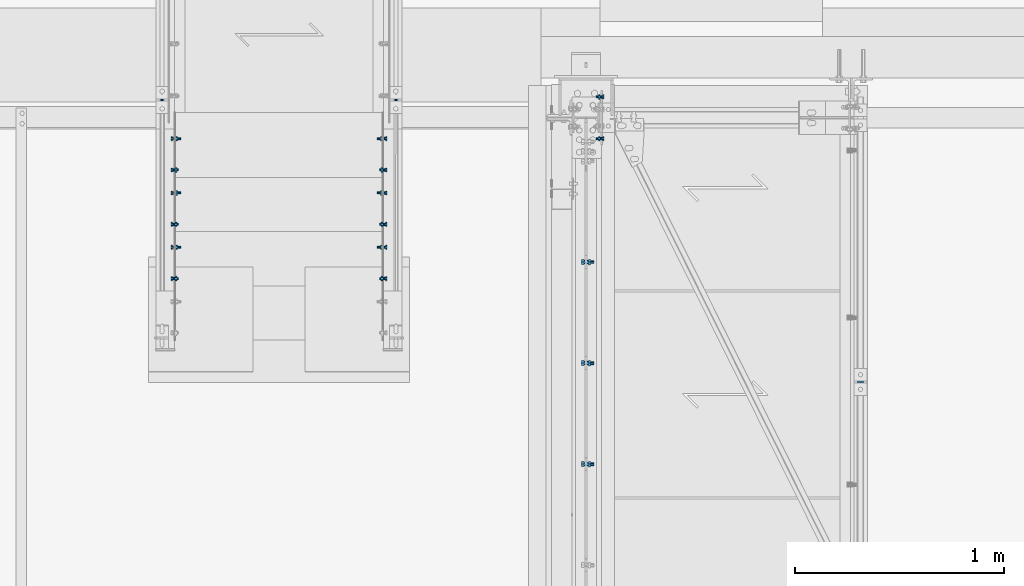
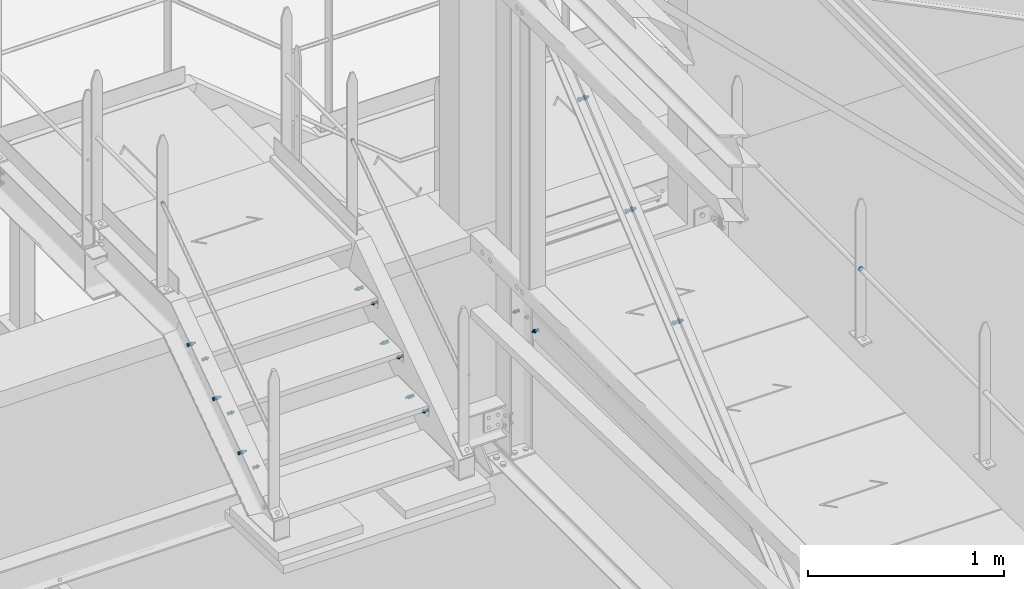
# One storey, part 333 of 362: 20 mechanical fasteners.
"""IFC2X3 building model written with IfcOpenShell, lengths in millimetres."""

from ifc_helpers import new_model, si_unit, frame, frame_2d, origin_with_axes, origin_2d_with_axis, place, context, subcontext, project, spatial, polyline, circle_curve, parameter, trimmed, segment, composite_curve, circle, outline, extrude, source, transform, mapped, material, type_object, element, save


model = new_model("IFC2X3")

# Units and contexts
model_context = context("Model", 3, precision=1e-05, world=origin_with_axes())
body_context = subcontext(model_context, "Body", "Model", "MODEL_VIEW")
ifc_project = project(units=[si_unit("LENGTHUNIT", "METRE", prefix="MILLI"), si_unit("AREAUNIT", "SQUARE_METRE"), si_unit("VOLUMEUNIT", "CUBIC_METRE"), si_unit("MASSUNIT", "GRAM", prefix="KILO"), si_unit("TIMEUNIT", "SECOND"), si_unit("PLANEANGLEUNIT", "RADIAN"), si_unit("SOLIDANGLEUNIT", "STERADIAN"), si_unit("THERMODYNAMICTEMPERATUREUNIT", "DEGREE_CELSIUS"), si_unit("LUMINOUSINTENSITYUNIT", "LUMEN")], contexts=[model_context])

# Site, building, storey
site_placement = place(None, origin_with_axes())
site = spatial("IfcSite", under=ifc_project, at=site_placement, Name="Undefined", CompositionType="ELEMENT")
building_placement = place(site_placement, origin_with_axes())
building = spatial("IfcBuilding", under=site, at=building_placement, Name="Undefined", CompositionType="ELEMENT")
storey_placement = place(building_placement, origin_with_axes())
storey = spatial("IfcBuildingStorey", under=building, at=storey_placement, Name="Undefined", CompositionType="ELEMENT", Elevation=0.0)

# Mechanical fasteners
ifc_material_1 = material(Name="6.8")
mechanical_fastener_type = type_object("IfcMechanicalFastenerType", Name="Bolt assembly")
shared_shape_1 = source(origin_with_axes(), body_context, "Body", "SweptSolid", [
    extrude(circle(Radius=7.0, at=origin_2d_with_axis()), frame((0.0, 6.26397177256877e-05, 0.0), z_axis=(0.0, 1.0, 0.0), x_axis=(1.0, 0.0, 0.0)), (0.0, 0.0, 1.0), 10.1),
])
for number, where, z_axis, x_axis, name in (
    (1, (33369.9936634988, 15290.0038659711, 9438.8), (0.0, 0.0, 1.0), (-1.0, 0.0, 0.0), "Bolt assembly"),
    (2, (32249.9863365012, 15290.0038659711, 9438.8), (0.0, 0.0, -1.0), (1.0, 0.0, 0.0), "Bolt assembly"),
):
    element("IfcMechanicalFastener", number, at=place(storey_placement, frame(where, z_axis=z_axis, x_axis=x_axis)), inside=storey, type_object=mechanical_fastener_type, material=ifc_material_1, Name=name, NominalDiameter=12.0, NominalLength=10.0, context=body_context, shape_type="MappedRepresentation", body=[
        mapped(shared_shape_1, transform((0.0, 0.0, 0.0))),
    ])
ifc_material_2 = material(Name="8.8-SB-GALVA")
shared_shape_2 = source(origin_with_axes(), body_context, "Body", "SweptSolid", [
    extrude(circle(Radius=7.0, at=origin_2d_with_axis()), frame((0.0, -9.90049171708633, 0.0), z_axis=(0.0, 1.0, 0.0), x_axis=(1.0, 0.0, 0.0)), (0.0, 0.0, 1.0), 10.0),
    extrude(circle(Radius=7.0, at=origin_2d_with_axis()), frame((0.0, -0.100011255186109, 0.0), z_axis=(0.0, 1.0, 0.0), x_axis=(1.0, 0.0, 0.0)), (0.0, 0.0, 1.0), 3.1),
    extrude(outline(polyline([(10.39230484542, 0.0), (5.19615242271, 9.00000000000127), (-5.19615242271, 9.00000000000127), (-10.39230484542, 0.0), (-5.19615242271, -9.00000000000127), (5.19615242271, -9.00000000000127), (10.39230484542, 0.0)])), frame((0.0, -17.9204917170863, 0.0), z_axis=(0.0, 1.0, 0.0), x_axis=(1.0, 0.0, 0.0)), (0.0, 0.0, 1.0), 7.92),
    extrude(circle(Radius=6.0, at=origin_2d_with_axis()), frame((0.0, -10.0004917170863, 0.0), z_axis=(0.0, 1.0, 0.0), x_axis=(1.0, 0.0, 0.0)), (0.0, 0.0, 1.0), 30.0),
    extrude(outline(polyline([(11.5008173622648, 0.0), (5.7504086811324, 9.96000000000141), (-5.7504086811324, 9.96000000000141), (-11.5008173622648, 0.0), (-5.7504086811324, -9.96000000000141), (5.7504086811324, -9.96000000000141), (11.5008173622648, 0.0)])), frame((0.0, 3.00000067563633, 0.0), z_axis=(0.0, 1.0, 0.0), x_axis=(1.0, 0.0, 0.0)), (0.0, 0.0, 1.0), 7.92),
])
mechanical_fastener_1_placement = place(storey_placement, frame((33309.9947340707, 14949.9997910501, 8645.0), z_axis=(0.0, 0.0, 1.0), x_axis=(0.0, 1.0, 0.0)))
element("IfcMechanicalFastener", 3, at=mechanical_fastener_1_placement, inside=storey, type_object=mechanical_fastener_type, material=ifc_material_2, Name="Bolt assembly", NominalDiameter=12.0, NominalLength=30.0, context=body_context, shape_type="MappedRepresentation", body=[
    mapped(shared_shape_2, transform((0.0, 0.0, 0.0))),
])
shared_shape_3 = source(origin_with_axes(), body_context, "Body", "SweptSolid", [
    extrude(circle(Radius=7.0, at=origin_2d_with_axis()), frame((0.0, -9.89994875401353, 0.0), z_axis=(0.0, 1.0, 0.0), x_axis=(1.0, 0.0, 0.0)), (0.0, 0.0, 1.0), 10.0),
    extrude(circle(Radius=7.0, at=origin_2d_with_axis()), frame((0.0, -0.100011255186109, 0.0), z_axis=(0.0, 1.0, 0.0), x_axis=(1.0, 0.0, 0.0)), (0.0, 0.0, 1.0), 3.1),
    extrude(outline(polyline([(10.39230484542, 0.0), (5.19615242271, 9.00000000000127), (-5.19615242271, 9.00000000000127), (-10.39230484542, 0.0), (-5.19615242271, -9.00000000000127), (5.19615242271, -9.00000000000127), (10.39230484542, 0.0)])), frame((0.0, -17.9199487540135, 0.0), z_axis=(0.0, 1.0, 0.0), x_axis=(1.0, 0.0, 0.0)), (0.0, 0.0, 1.0), 7.92),
    extrude(circle(Radius=6.0, at=origin_2d_with_axis()), frame((0.0, -9.99994875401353, 0.0), z_axis=(0.0, 1.0, 0.0), x_axis=(1.0, 0.0, 0.0)), (0.0, 0.0, 1.0), 30.0),
    extrude(outline(polyline([(11.5008173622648, 0.0), (5.7504086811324, 9.96000000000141), (-5.7504086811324, 9.96000000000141), (-11.5008173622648, 0.0), (-5.7504086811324, -9.96000000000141), (5.7504086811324, -9.96000000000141), (11.5008173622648, 0.0)])), frame((0.0, 3.00000067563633, 0.0), z_axis=(0.0, 1.0, 0.0), x_axis=(1.0, 0.0, 0.0)), (0.0, 0.0, 1.0), 7.92),
])
mechanical_fastener_2_placement = place(storey_placement, frame((33309.9947340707, 14689.9997910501, 8465.00000004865), z_axis=(0.0, 0.0, 1.0), x_axis=(0.0, 1.0, 0.0)))
element("IfcMechanicalFastener", 4, at=mechanical_fastener_2_placement, inside=storey, type_object=mechanical_fastener_type, material=ifc_material_2, Name="Bolt assembly", NominalDiameter=12.0, NominalLength=30.0, context=body_context, shape_type="MappedRepresentation", body=[
    mapped(shared_shape_3, transform((0.0, 0.0, 0.0))),
])
shared_shape_4 = source(origin_with_axes(), body_context, "Body", "SweptSolid", [
    extrude(circle(Radius=7.0, at=origin_2d_with_axis()), frame((0.0, -9.89940579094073, 0.0), z_axis=(0.0, 1.0, 0.0), x_axis=(1.0, 0.0, 0.0)), (0.0, 0.0, 1.0), 10.0),
    extrude(circle(Radius=7.0, at=origin_2d_with_axis()), frame((0.0, -0.100011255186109, 0.0), z_axis=(0.0, 1.0, 0.0), x_axis=(1.0, 0.0, 0.0)), (0.0, 0.0, 1.0), 3.1),
    extrude(outline(polyline([(10.39230484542, 0.0), (5.19615242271, 9.00000000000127), (-5.19615242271, 9.00000000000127), (-10.39230484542, 0.0), (-5.19615242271, -9.00000000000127), (5.19615242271, -9.00000000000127), (10.39230484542, 0.0)])), frame((0.0, -17.9194057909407, 0.0), z_axis=(0.0, 1.0, 0.0), x_axis=(1.0, 0.0, 0.0)), (0.0, 0.0, 1.0), 7.92),
    extrude(circle(Radius=6.0, at=origin_2d_with_axis()), frame((0.0, -9.99940579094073, 0.0), z_axis=(0.0, 1.0, 0.0), x_axis=(1.0, 0.0, 0.0)), (0.0, 0.0, 1.0), 30.0),
    extrude(outline(polyline([(11.5008173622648, 0.0), (5.7504086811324, 9.96000000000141), (-5.7504086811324, 9.96000000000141), (-11.5008173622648, 0.0), (-5.7504086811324, -9.96000000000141), (5.7504086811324, -9.96000000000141), (11.5008173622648, 0.0)])), frame((0.0, 3.00000067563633, 0.0), z_axis=(0.0, 1.0, 0.0), x_axis=(1.0, 0.0, 0.0)), (0.0, 0.0, 1.0), 7.92),
])
mechanical_fastener_3_placement = place(storey_placement, frame((33309.9947340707, 14429.9997910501, 8285.00000007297), z_axis=(0.0, 0.0, 1.0), x_axis=(0.0, 1.0, 0.0)))
element("IfcMechanicalFastener", 5, at=mechanical_fastener_3_placement, inside=storey, type_object=mechanical_fastener_type, material=ifc_material_2, Name="Bolt assembly", NominalDiameter=12.0, NominalLength=30.0, context=body_context, shape_type="MappedRepresentation", body=[
    mapped(shared_shape_4, transform((0.0, 0.0, 0.0))),
])
shared_shape_5 = source(origin_with_axes(), body_context, "Body", "SweptSolid", [
    extrude(circle(Radius=7.0, at=origin_2d_with_axis()), frame((0.0, -9.88995939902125, 0.0), z_axis=(0.0, 1.0, 0.0), x_axis=(1.0, 0.0, 0.0)), (0.0, 0.0, 1.0), 10.0),
    extrude(circle(Radius=7.0, at=origin_2d_with_axis()), frame((0.0, -0.100011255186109, 0.0), z_axis=(0.0, 1.0, 0.0), x_axis=(1.0, 0.0, 0.0)), (0.0, 0.0, 1.0), 3.1),
    extrude(outline(polyline([(10.39230484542, 0.0), (5.19615242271, 9.00000000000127), (-5.19615242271, 9.00000000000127), (-10.39230484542, 0.0), (-5.19615242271, -9.00000000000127), (5.19615242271, -9.00000000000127), (10.39230484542, 0.0)])), frame((0.0, -17.9099593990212, 0.0), z_axis=(0.0, 1.0, 0.0), x_axis=(1.0, 0.0, 0.0)), (0.0, 0.0, 1.0), 7.92),
    extrude(circle(Radius=6.0, at=origin_2d_with_axis()), frame((0.0, -9.98995939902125, 0.0), z_axis=(0.0, 1.0, 0.0), x_axis=(1.0, 0.0, 0.0)), (0.0, 0.0, 1.0), 30.0),
    extrude(outline(polyline([(11.5008173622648, 0.0), (5.7504086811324, 9.96000000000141), (-5.7504086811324, 9.96000000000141), (-11.5008173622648, 0.0), (-5.7504086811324, -9.96000000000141), (5.7504086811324, -9.96000000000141), (11.5008173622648, 0.0)])), frame((0.0, 3.00000067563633, 0.0), z_axis=(0.0, 1.0, 0.0), x_axis=(1.0, 0.0, 0.0)), (0.0, 0.0, 1.0), 7.92),
])
mechanical_fastener_4_placement = place(storey_placement, frame((32309.9947340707, 14949.9997910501, 8645.0), z_axis=(0.0, 0.0, -1.0), x_axis=(0.0, 1.0, 0.0)))
element("IfcMechanicalFastener", 6, at=mechanical_fastener_4_placement, inside=storey, type_object=mechanical_fastener_type, material=ifc_material_2, Name="Bolt assembly", NominalDiameter=12.0, NominalLength=30.0, context=body_context, shape_type="MappedRepresentation", body=[
    mapped(shared_shape_5, transform((0.0, 0.0, 0.0))),
])
shared_shape_6 = source(origin_with_axes(), body_context, "Body", "SweptSolid", [
    extrude(circle(Radius=7.0, at=origin_2d_with_axis()), frame((0.0, -9.88941643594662, 0.0), z_axis=(0.0, 1.0, 0.0), x_axis=(1.0, 0.0, 0.0)), (0.0, 0.0, 1.0), 10.0),
    extrude(circle(Radius=7.0, at=origin_2d_with_axis()), frame((0.0, -0.100011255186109, 0.0), z_axis=(0.0, 1.0, 0.0), x_axis=(1.0, 0.0, 0.0)), (0.0, 0.0, 1.0), 3.1),
    extrude(outline(polyline([(10.39230484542, 0.0), (5.19615242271, 9.00000000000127), (-5.19615242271, 9.00000000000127), (-10.39230484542, 0.0), (-5.19615242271, -9.00000000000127), (5.19615242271, -9.00000000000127), (10.39230484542, 0.0)])), frame((0.0, -17.9094164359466, 0.0), z_axis=(0.0, 1.0, 0.0), x_axis=(1.0, 0.0, 0.0)), (0.0, 0.0, 1.0), 7.92),
    extrude(circle(Radius=6.0, at=origin_2d_with_axis()), frame((0.0, -9.98941643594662, 0.0), z_axis=(0.0, 1.0, 0.0), x_axis=(1.0, 0.0, 0.0)), (0.0, 0.0, 1.0), 30.0),
    extrude(outline(polyline([(11.5008173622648, 0.0), (5.7504086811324, 9.96000000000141), (-5.7504086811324, 9.96000000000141), (-11.5008173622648, 0.0), (-5.7504086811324, -9.96000000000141), (5.7504086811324, -9.96000000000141), (11.5008173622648, 0.0)])), frame((0.0, 3.00000067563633, 0.0), z_axis=(0.0, 1.0, 0.0), x_axis=(1.0, 0.0, 0.0)), (0.0, 0.0, 1.0), 7.92),
])
mechanical_fastener_5_placement = place(storey_placement, frame((32309.9947340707, 14689.9997910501, 8465.00000004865), z_axis=(0.0, 0.0, -1.0), x_axis=(0.0, 1.0, 0.0)))
element("IfcMechanicalFastener", 7, at=mechanical_fastener_5_placement, inside=storey, type_object=mechanical_fastener_type, material=ifc_material_2, Name="Bolt assembly", NominalDiameter=12.0, NominalLength=30.0, context=body_context, shape_type="MappedRepresentation", body=[
    mapped(shared_shape_6, transform((0.0, 0.0, 0.0))),
])
shared_shape_7 = source(origin_with_axes(), body_context, "Body", "SweptSolid", [
    extrude(circle(Radius=7.0, at=origin_2d_with_axis()), frame((0.0, -9.888873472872, 0.0), z_axis=(0.0, 1.0, 0.0), x_axis=(1.0, 0.0, 0.0)), (0.0, 0.0, 1.0), 10.0),
    extrude(circle(Radius=7.0, at=origin_2d_with_axis()), frame((0.0, -0.100011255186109, 0.0), z_axis=(0.0, 1.0, 0.0), x_axis=(1.0, 0.0, 0.0)), (0.0, 0.0, 1.0), 3.1),
    extrude(outline(polyline([(10.39230484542, 0.0), (5.19615242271, 9.00000000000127), (-5.19615242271, 9.00000000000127), (-10.39230484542, 0.0), (-5.19615242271, -9.00000000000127), (5.19615242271, -9.00000000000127), (10.39230484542, 0.0)])), frame((0.0, -17.908873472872, 0.0), z_axis=(0.0, 1.0, 0.0), x_axis=(1.0, 0.0, 0.0)), (0.0, 0.0, 1.0), 7.92),
    extrude(circle(Radius=6.0, at=origin_2d_with_axis()), frame((0.0, -9.988873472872, 0.0), z_axis=(0.0, 1.0, 0.0), x_axis=(1.0, 0.0, 0.0)), (0.0, 0.0, 1.0), 30.0),
    extrude(outline(polyline([(11.5008173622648, 0.0), (5.7504086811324, 9.96000000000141), (-5.7504086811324, 9.96000000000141), (-11.5008173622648, 0.0), (-5.7504086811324, -9.96000000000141), (5.7504086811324, -9.96000000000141), (11.5008173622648, 0.0)])), frame((0.0, 3.00000067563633, 0.0), z_axis=(0.0, 1.0, 0.0), x_axis=(1.0, 0.0, 0.0)), (0.0, 0.0, 1.0), 7.92),
])
mechanical_fastener_6_placement = place(storey_placement, frame((32309.9947340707, 14429.9997910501, 8285.00000007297), z_axis=(0.0, 0.0, -1.0), x_axis=(0.0, 1.0, 0.0)))
element("IfcMechanicalFastener", 8, at=mechanical_fastener_6_placement, inside=storey, type_object=mechanical_fastener_type, material=ifc_material_2, Name="Bolt assembly", NominalDiameter=12.0, NominalLength=30.0, context=body_context, shape_type="MappedRepresentation", body=[
    mapped(shared_shape_7, transform((0.0, 0.0, 0.0))),
])
shared_shape_8 = source(origin_with_axes(), body_context, "Body", "SweptSolid", [
    extrude(circle(Radius=7.0, at=origin_2d_with_axis()), frame((0.0, -9.88995939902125, 0.0), z_axis=(0.0, 1.0, 0.0), x_axis=(1.0, 0.0, 0.0)), (0.0, 0.0, 1.0), 10.0),
    extrude(outline(composite_curve([segment(polyline([(-7.0, 7.0), (7.0, 7.0)]), True, "CONTINUOUS"), segment(trimmed(circle_curve(frame_2d((7.0, 0.0), x_axis=(0.0, 1.0)), 7.0), [parameter(0.0)], [parameter(3.14159265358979)], False, "PARAMETER"), True, "CONTINUOUS"), segment(polyline([(7.0, -7.0), (-7.0, -7.0)]), True, "CONTINUOUS"), segment(trimmed(circle_curve(frame_2d((-7.0, 0.0), x_axis=(0.0, -1.0)), 7.0), [parameter(0.0)], [parameter(3.14159265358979)], False, "PARAMETER"), True, "DISCONTINUOUS")], self_intersect=False)), frame((0.0, -0.100011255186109, 0.0), z_axis=(0.0, 1.0, 0.0), x_axis=(1.0, 0.0, 0.0)), (0.0, 0.0, 1.0), 3.1),
    extrude(outline(polyline([(10.39230484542, 0.0), (5.19615242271, 9.00000000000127), (-5.19615242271, 9.00000000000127), (-10.39230484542, 0.0), (-5.19615242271, -9.00000000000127), (5.19615242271, -9.00000000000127), (10.39230484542, 0.0)])), frame((0.0, -17.9099593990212, 0.0), z_axis=(0.0, 1.0, 0.0), x_axis=(1.0, 0.0, 0.0)), (0.0, 0.0, 1.0), 7.92),
    extrude(circle(Radius=6.0, at=origin_2d_with_axis()), frame((0.0, -9.98995939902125, 0.0), z_axis=(0.0, 1.0, 0.0), x_axis=(1.0, 0.0, 0.0)), (0.0, 0.0, 1.0), 40.0),
    extrude(circle(Radius=10.8, at=origin_2d_with_axis()), frame((0.0, 3.00000067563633, 0.0), z_axis=(0.0, 1.0, 0.0), x_axis=(1.0, 0.0, 0.0)), (0.0, 0.0, 1.0), 3.96),
    extrude(outline(polyline([(11.5008173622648, 0.0), (5.7504086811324, 9.96000000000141), (-5.7504086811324, 9.96000000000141), (-11.5008173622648, 0.0), (-5.7504086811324, -9.96000000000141), (5.7504086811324, -9.96000000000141), (11.5008173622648, 0.0)])), frame((0.0, 6.96, 0.0), z_axis=(0.0, 1.0, 0.0), x_axis=(1.0, 0.0, 0.0)), (0.0, 0.0, 1.0), 7.92),
])
mechanical_fastener_7_placement = place(storey_placement, frame((32309.9947340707, 15099.9997910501, 8645.0), z_axis=(0.0, 0.0, -1.0), x_axis=(0.0, 1.0, 0.0)))
element("IfcMechanicalFastener", 9, at=mechanical_fastener_7_placement, inside=storey, type_object=mechanical_fastener_type, material=ifc_material_2, Name="Bolt assembly", NominalDiameter=12.0, NominalLength=40.0, context=body_context, shape_type="MappedRepresentation", body=[
    mapped(shared_shape_8, transform((0.0, 0.0, 0.0))),
])
shared_shape_9 = source(origin_with_axes(), body_context, "Body", "SweptSolid", [
    extrude(circle(Radius=7.0, at=origin_2d_with_axis()), frame((0.0, -9.90049171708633, 0.0), z_axis=(0.0, 1.0, 0.0), x_axis=(1.0, 0.0, 0.0)), (0.0, 0.0, 1.0), 10.0),
    extrude(outline(composite_curve([segment(polyline([(-7.0, 7.0), (7.0, 7.0)]), True, "CONTINUOUS"), segment(trimmed(circle_curve(frame_2d((7.0, 0.0), x_axis=(0.0, 1.0)), 7.0), [parameter(0.0)], [parameter(3.14159265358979)], False, "PARAMETER"), True, "CONTINUOUS"), segment(polyline([(7.0, -7.0), (-7.0, -7.0)]), True, "CONTINUOUS"), segment(trimmed(circle_curve(frame_2d((-7.0, 0.0), x_axis=(0.0, -1.0)), 7.0), [parameter(0.0)], [parameter(3.14159265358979)], False, "PARAMETER"), True, "DISCONTINUOUS")], self_intersect=False)), frame((0.0, -0.100011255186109, 0.0), z_axis=(0.0, 1.0, 0.0), x_axis=(1.0, 0.0, 0.0)), (0.0, 0.0, 1.0), 3.1),
    extrude(outline(polyline([(10.39230484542, 0.0), (5.19615242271, 9.00000000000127), (-5.19615242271, 9.00000000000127), (-10.39230484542, 0.0), (-5.19615242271, -9.00000000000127), (5.19615242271, -9.00000000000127), (10.39230484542, 0.0)])), frame((0.0, -17.9204917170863, 0.0), z_axis=(0.0, 1.0, 0.0), x_axis=(1.0, 0.0, 0.0)), (0.0, 0.0, 1.0), 7.92),
    extrude(circle(Radius=6.0, at=origin_2d_with_axis()), frame((0.0, -10.0004917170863, 0.0), z_axis=(0.0, 1.0, 0.0), x_axis=(1.0, 0.0, 0.0)), (0.0, 0.0, 1.0), 40.0),
    extrude(circle(Radius=10.8, at=origin_2d_with_axis()), frame((0.0, 3.00000067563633, 0.0), z_axis=(0.0, 1.0, 0.0), x_axis=(1.0, 0.0, 0.0)), (0.0, 0.0, 1.0), 3.96),
    extrude(outline(polyline([(11.5008173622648, 0.0), (5.7504086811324, 9.96000000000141), (-5.7504086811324, 9.96000000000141), (-11.5008173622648, 0.0), (-5.7504086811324, -9.96000000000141), (5.7504086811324, -9.96000000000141), (11.5008173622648, 0.0)])), frame((0.0, 6.96, 0.0), z_axis=(0.0, 1.0, 0.0), x_axis=(1.0, 0.0, 0.0)), (0.0, 0.0, 1.0), 7.92),
])
mechanical_fastener_8_placement = place(storey_placement, frame((33309.9947340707, 15099.9997910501, 8645.0), z_axis=(0.0, 0.0, 1.0), x_axis=(0.0, 1.0, 0.0)))
element("IfcMechanicalFastener", 10, at=mechanical_fastener_8_placement, inside=storey, type_object=mechanical_fastener_type, material=ifc_material_2, Name="Bolt assembly", NominalDiameter=12.0, NominalLength=40.0, context=body_context, shape_type="MappedRepresentation", body=[
    mapped(shared_shape_9, transform((0.0, 0.0, 0.0))),
])
shared_shape_10 = source(origin_with_axes(), body_context, "Body", "SweptSolid", [
    extrude(circle(Radius=7.0, at=origin_2d_with_axis()), frame((0.0, -9.88941643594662, 0.0), z_axis=(0.0, 1.0, 0.0), x_axis=(1.0, 0.0, 0.0)), (0.0, 0.0, 1.0), 10.0),
    extrude(outline(composite_curve([segment(polyline([(-7.0, 7.0), (7.0, 7.0)]), True, "CONTINUOUS"), segment(trimmed(circle_curve(frame_2d((7.0, 0.0), x_axis=(0.0, 1.0)), 7.0), [parameter(0.0)], [parameter(3.14159265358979)], False, "PARAMETER"), True, "CONTINUOUS"), segment(polyline([(7.0, -7.0), (-7.0, -7.0)]), True, "CONTINUOUS"), segment(trimmed(circle_curve(frame_2d((-7.0, 0.0), x_axis=(0.0, -1.0)), 7.0), [parameter(0.0)], [parameter(3.14159265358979)], False, "PARAMETER"), True, "DISCONTINUOUS")], self_intersect=False)), frame((0.0, -0.100011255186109, 0.0), z_axis=(0.0, 1.0, 0.0), x_axis=(1.0, 0.0, 0.0)), (0.0, 0.0, 1.0), 3.1),
    extrude(outline(polyline([(10.39230484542, 0.0), (5.19615242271, 9.00000000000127), (-5.19615242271, 9.00000000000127), (-10.39230484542, 0.0), (-5.19615242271, -9.00000000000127), (5.19615242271, -9.00000000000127), (10.39230484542, 0.0)])), frame((0.0, -17.9094164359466, 0.0), z_axis=(0.0, 1.0, 0.0), x_axis=(1.0, 0.0, 0.0)), (0.0, 0.0, 1.0), 7.92),
    extrude(circle(Radius=6.0, at=origin_2d_with_axis()), frame((0.0, -9.98941643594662, 0.0), z_axis=(0.0, 1.0, 0.0), x_axis=(1.0, 0.0, 0.0)), (0.0, 0.0, 1.0), 40.0),
    extrude(circle(Radius=10.8, at=origin_2d_with_axis()), frame((0.0, 3.00000067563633, 0.0), z_axis=(0.0, 1.0, 0.0), x_axis=(1.0, 0.0, 0.0)), (0.0, 0.0, 1.0), 3.96),
    extrude(outline(polyline([(11.5008173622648, 0.0), (5.7504086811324, 9.96000000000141), (-5.7504086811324, 9.96000000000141), (-11.5008173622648, 0.0), (-5.7504086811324, -9.96000000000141), (5.7504086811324, -9.96000000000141), (11.5008173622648, 0.0)])), frame((0.0, 6.96, 0.0), z_axis=(0.0, 1.0, 0.0), x_axis=(1.0, 0.0, 0.0)), (0.0, 0.0, 1.0), 7.92),
])
mechanical_fastener_9_placement = place(storey_placement, frame((32309.9947340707, 14839.9997910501, 8465.00000004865), z_axis=(0.0, 0.0, -1.0), x_axis=(0.0, 1.0, 0.0)))
element("IfcMechanicalFastener", 11, at=mechanical_fastener_9_placement, inside=storey, type_object=mechanical_fastener_type, material=ifc_material_2, Name="Bolt assembly", NominalDiameter=12.0, NominalLength=40.0, context=body_context, shape_type="MappedRepresentation", body=[
    mapped(shared_shape_10, transform((0.0, 0.0, 0.0))),
])
shared_shape_11 = source(origin_with_axes(), body_context, "Body", "SweptSolid", [
    extrude(circle(Radius=7.0, at=origin_2d_with_axis()), frame((0.0, -9.9, 0.0), z_axis=(0.0, 1.0, 0.0), x_axis=(1.0, 0.0, 0.0)), (0.0, 0.0, 1.0), 10.0),
    extrude(outline(composite_curve([segment(polyline([(-7.0, 7.0), (7.0, 7.0)]), True, "CONTINUOUS"), segment(trimmed(circle_curve(frame_2d((7.0, 0.0), x_axis=(0.0, 1.0)), 7.0), [parameter(0.0)], [parameter(3.14159265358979)], False, "PARAMETER"), True, "CONTINUOUS"), segment(polyline([(7.0, -7.0), (-7.0, -7.0)]), True, "CONTINUOUS"), segment(trimmed(circle_curve(frame_2d((-7.0, 0.0), x_axis=(0.0, -1.0)), 7.0), [parameter(0.0)], [parameter(3.14159265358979)], False, "PARAMETER"), True, "DISCONTINUOUS")], self_intersect=False)), frame((0.0, -0.100011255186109, 0.0), z_axis=(0.0, 1.0, 0.0), x_axis=(1.0, 0.0, 0.0)), (0.0, 0.0, 1.0), 3.1),
    extrude(outline(polyline([(10.39230484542, 0.0), (5.19615242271, 9.00000000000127), (-5.19615242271, 9.00000000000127), (-10.39230484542, 0.0), (-5.19615242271, -9.00000000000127), (5.19615242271, -9.00000000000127), (10.39230484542, 0.0)])), frame((0.0, -17.92, 0.0), z_axis=(0.0, 1.0, 0.0), x_axis=(1.0, 0.0, 0.0)), (0.0, 0.0, 1.0), 7.92),
    extrude(circle(Radius=6.0, at=origin_2d_with_axis()), frame((0.0, -10.0000010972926, 0.0), z_axis=(0.0, 1.0, 0.0), x_axis=(1.0, 0.0, 0.0)), (0.0, 0.0, 1.0), 40.0),
    extrude(circle(Radius=10.8, at=origin_2d_with_axis()), frame((0.0, 3.00000067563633, 0.0), z_axis=(0.0, 1.0, 0.0), x_axis=(1.0, 0.0, 0.0)), (0.0, 0.0, 1.0), 3.96),
    extrude(outline(polyline([(11.5008173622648, 0.0), (5.7504086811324, 9.96000000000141), (-5.7504086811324, 9.96000000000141), (-11.5008173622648, 0.0), (-5.7504086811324, -9.96000000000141), (5.7504086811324, -9.96000000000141), (11.5008173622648, 0.0)])), frame((0.0, 6.96, 0.0), z_axis=(0.0, 1.0, 0.0), x_axis=(1.0, 0.0, 0.0)), (0.0, 0.0, 1.0), 7.92),
])
mechanical_fastener_10_placement = place(storey_placement, frame((33309.9947340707, 14839.9997910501, 8465.00000004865), z_axis=(0.0, 0.0, 1.0), x_axis=(0.0, 1.0, 0.0)))
element("IfcMechanicalFastener", 12, at=mechanical_fastener_10_placement, inside=storey, type_object=mechanical_fastener_type, material=ifc_material_2, Name="Bolt assembly", NominalDiameter=12.0, NominalLength=40.0, context=body_context, shape_type="MappedRepresentation", body=[
    mapped(shared_shape_11, transform((0.0, 0.0, 0.0))),
])
shared_shape_12 = source(origin_with_axes(), body_context, "Body", "SweptSolid", [
    extrude(circle(Radius=7.0, at=origin_2d_with_axis()), frame((0.0, -9.888873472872, 0.0), z_axis=(0.0, 1.0, 0.0), x_axis=(1.0, 0.0, 0.0)), (0.0, 0.0, 1.0), 10.0),
    extrude(outline(composite_curve([segment(polyline([(-7.0, 7.0), (7.0, 7.0)]), True, "CONTINUOUS"), segment(trimmed(circle_curve(frame_2d((7.0, 0.0), x_axis=(0.0, 1.0)), 7.0), [parameter(0.0)], [parameter(3.14159265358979)], False, "PARAMETER"), True, "CONTINUOUS"), segment(polyline([(7.0, -7.0), (-7.0, -7.0)]), True, "CONTINUOUS"), segment(trimmed(circle_curve(frame_2d((-7.0, 0.0), x_axis=(0.0, -1.0)), 7.0), [parameter(0.0)], [parameter(3.14159265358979)], False, "PARAMETER"), True, "DISCONTINUOUS")], self_intersect=False)), frame((0.0, -0.100011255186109, 0.0), z_axis=(0.0, 1.0, 0.0), x_axis=(1.0, 0.0, 0.0)), (0.0, 0.0, 1.0), 3.1),
    extrude(outline(polyline([(10.39230484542, 0.0), (5.19615242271, 9.00000000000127), (-5.19615242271, 9.00000000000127), (-10.39230484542, 0.0), (-5.19615242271, -9.00000000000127), (5.19615242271, -9.00000000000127), (10.39230484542, 0.0)])), frame((0.0, -17.908873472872, 0.0), z_axis=(0.0, 1.0, 0.0), x_axis=(1.0, 0.0, 0.0)), (0.0, 0.0, 1.0), 7.92),
    extrude(circle(Radius=6.0, at=origin_2d_with_axis()), frame((0.0, -9.988873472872, 0.0), z_axis=(0.0, 1.0, 0.0), x_axis=(1.0, 0.0, 0.0)), (0.0, 0.0, 1.0), 40.0),
    extrude(circle(Radius=10.8, at=origin_2d_with_axis()), frame((0.0, 3.00000067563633, 0.0), z_axis=(0.0, 1.0, 0.0), x_axis=(1.0, 0.0, 0.0)), (0.0, 0.0, 1.0), 3.96),
    extrude(outline(polyline([(11.5008173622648, 0.0), (5.7504086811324, 9.96000000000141), (-5.7504086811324, 9.96000000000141), (-11.5008173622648, 0.0), (-5.7504086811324, -9.96000000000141), (5.7504086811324, -9.96000000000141), (11.5008173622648, 0.0)])), frame((0.0, 6.96, 0.0), z_axis=(0.0, 1.0, 0.0), x_axis=(1.0, 0.0, 0.0)), (0.0, 0.0, 1.0), 7.92),
])
mechanical_fastener_11_placement = place(storey_placement, frame((32309.9947340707, 14579.9997910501, 8285.00000007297), z_axis=(0.0, 0.0, -1.0), x_axis=(0.0, 1.0, 0.0)))
element("IfcMechanicalFastener", 13, at=mechanical_fastener_11_placement, inside=storey, type_object=mechanical_fastener_type, material=ifc_material_2, Name="Bolt assembly", NominalDiameter=12.0, NominalLength=40.0, context=body_context, shape_type="MappedRepresentation", body=[
    mapped(shared_shape_12, transform((0.0, 0.0, 0.0))),
])
shared_shape_13 = source(origin_with_axes(), body_context, "Body", "SweptSolid", [
    extrude(circle(Radius=7.0, at=origin_2d_with_axis()), frame((0.0, -9.89940579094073, 0.0), z_axis=(0.0, 1.0, 0.0), x_axis=(1.0, 0.0, 0.0)), (0.0, 0.0, 1.0), 10.0),
    extrude(outline(composite_curve([segment(polyline([(-7.0, 7.0), (7.0, 7.0)]), True, "CONTINUOUS"), segment(trimmed(circle_curve(frame_2d((7.0, 0.0), x_axis=(0.0, 1.0)), 7.0), [parameter(0.0)], [parameter(3.14159265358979)], False, "PARAMETER"), True, "CONTINUOUS"), segment(polyline([(7.0, -7.0), (-7.0, -7.0)]), True, "CONTINUOUS"), segment(trimmed(circle_curve(frame_2d((-7.0, 0.0), x_axis=(0.0, -1.0)), 7.0), [parameter(0.0)], [parameter(3.14159265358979)], False, "PARAMETER"), True, "DISCONTINUOUS")], self_intersect=False)), frame((0.0, -0.100011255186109, 0.0), z_axis=(0.0, 1.0, 0.0), x_axis=(1.0, 0.0, 0.0)), (0.0, 0.0, 1.0), 3.1),
    extrude(outline(polyline([(10.39230484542, 0.0), (5.19615242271, 9.00000000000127), (-5.19615242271, 9.00000000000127), (-10.39230484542, 0.0), (-5.19615242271, -9.00000000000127), (5.19615242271, -9.00000000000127), (10.39230484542, 0.0)])), frame((0.0, -17.9194057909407, 0.0), z_axis=(0.0, 1.0, 0.0), x_axis=(1.0, 0.0, 0.0)), (0.0, 0.0, 1.0), 7.92),
    extrude(circle(Radius=6.0, at=origin_2d_with_axis()), frame((0.0, -9.99940579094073, 0.0), z_axis=(0.0, 1.0, 0.0), x_axis=(1.0, 0.0, 0.0)), (0.0, 0.0, 1.0), 40.0),
    extrude(circle(Radius=10.8, at=origin_2d_with_axis()), frame((0.0, 3.00000067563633, 0.0), z_axis=(0.0, 1.0, 0.0), x_axis=(1.0, 0.0, 0.0)), (0.0, 0.0, 1.0), 3.96),
    extrude(outline(polyline([(11.5008173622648, 0.0), (5.7504086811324, 9.96000000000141), (-5.7504086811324, 9.96000000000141), (-11.5008173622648, 0.0), (-5.7504086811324, -9.96000000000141), (5.7504086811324, -9.96000000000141), (11.5008173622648, 0.0)])), frame((0.0, 6.96, 0.0), z_axis=(0.0, 1.0, 0.0), x_axis=(1.0, 0.0, 0.0)), (0.0, 0.0, 1.0), 7.92),
])
mechanical_fastener_12_placement = place(storey_placement, frame((33309.9947340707, 14579.9997910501, 8285.00000007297), z_axis=(0.0, 0.0, 1.0), x_axis=(0.0, 1.0, 0.0)))
element("IfcMechanicalFastener", 14, at=mechanical_fastener_12_placement, inside=storey, type_object=mechanical_fastener_type, material=ifc_material_2, Name="Bolt assembly", NominalDiameter=12.0, NominalLength=40.0, context=body_context, shape_type="MappedRepresentation", body=[
    mapped(shared_shape_13, transform((0.0, 0.0, 0.0))),
])
ifc_material_3 = material(Name="8.8-SB-ZINGUE")
shared_shape_14 = source(origin_with_axes(), body_context, "Body", "SweptSolid", [
    extrude(circle(Radius=9.0, at=origin_2d_with_axis()), frame((0.0, -10.9000000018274, 0.0), z_axis=(0.0, 1.0, 0.0), x_axis=(1.0, 0.0, 0.0)), (0.0, 0.0, 1.0), 6.0),
    extrude(circle(Radius=9.0, at=origin_2d_with_axis()), frame((0.0, 4.9000000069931, 0.0), z_axis=(0.0, 1.0, 0.0), x_axis=(1.0, 0.0, 0.0)), (0.0, 0.0, 1.0), 6.1),
    extrude(circle(Radius=9.0, at=origin_2d_with_axis()), frame((0.0, -3.99999923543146, 0.0), z_axis=(0.0, 1.0, 0.0), x_axis=(1.0, 0.0, 0.0)), (0.0, 0.0, 1.0), 8.0),
    extrude(outline(polyline([(13.85640646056, 0.0), (6.92820323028, 12.0000000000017), (-6.92820323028, 12.0000000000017), (-13.85640646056, 0.0), (-6.92820323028, -12.0000000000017), (6.92820323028, -12.0000000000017), (13.85640646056, 0.0)])), frame((0.0, -21.5600000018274, 0.0), z_axis=(0.0, 1.0, 0.0), x_axis=(1.0, 0.0, 0.0)), (0.0, 0.0, 1.0), 10.56),
    extrude(circle(Radius=8.0, at=origin_2d_with_axis()), frame((0.0, -11.0000000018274, 0.0), z_axis=(0.0, 1.0, 0.0), x_axis=(1.0, 0.0, 0.0)), (0.0, 0.0, 1.0), 50.0),
    extrude(outline(polyline([(15.3344231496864, 0.0), (7.6672115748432, 13.2800000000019), (-7.6672115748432, 13.2800000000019), (-15.3344231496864, 0.0), (-7.6672115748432, -13.2800000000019), (7.6672115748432, -13.2800000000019), (15.3344231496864, 0.0)])), frame((0.0, 11.0000000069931, 0.0), z_axis=(0.0, 1.0, 0.0), x_axis=(1.0, 0.0, 0.0)), (0.0, 0.0, 1.0), 10.56),
])
for number, where, z_axis, x_axis, name in (
    (15, (34280.0, 13541.8214620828, 9038.42092004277), (0.0, 1.0, 0.0), (0.0, 0.0, 1.0), "Bolt assembly"),
    (16, (34280.0, 14025.4643852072, 9442.2627612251), (0.0, 1.0, 0.0), (0.0, 0.0, 1.0), "Bolt assembly"),
    (17, (34280.0, 14509.1073083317, 9846.10460240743), (0.0, 1.0, 0.0), (0.0, 0.0, 1.0), "Bolt assembly"),
):
    element("IfcMechanicalFastener", number, at=place(storey_placement, frame(where, z_axis=z_axis, x_axis=x_axis)), inside=storey, type_object=mechanical_fastener_type, material=ifc_material_3, Name=name, NominalDiameter=16.0, NominalLength=50.0, context=body_context, shape_type="MappedRepresentation", body=[
        mapped(shared_shape_14, transform((0.0, 0.0, 0.0))),
    ])
shared_shape_15 = source(origin_with_axes(), body_context, "Body", "SweptSolid", [
    extrude(circle(Radius=14.0, at=origin_2d_with_axis()), frame((0.0, -5.00000000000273, 0.0), z_axis=(0.0, 1.0, 0.0), x_axis=(1.0, 0.0, 0.0)), (0.0, 0.0, 1.0), 10.1),
])
mechanical_fastener_13_placement = place(storey_placement, frame((35593.9917215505, 13935.0034325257, 8673.79999753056), z_axis=(0.0, 0.0, 1.0), x_axis=(-1.0, 0.0, 0.0)))
element("IfcMechanicalFastener", 18, at=mechanical_fastener_13_placement, inside=storey, type_object=mechanical_fastener_type, material=ifc_material_1, Name="Bolt assembly", NominalDiameter=27.0, NominalLength=10.0, context=body_context, shape_type="MappedRepresentation", body=[
    mapped(shared_shape_15, transform((0.0, 0.0, 0.0))),
])
shared_shape_16 = source(origin_with_axes(), body_context, "Body", "SweptSolid", [
    extrude(circle(Radius=7.0, at=origin_2d_with_axis()), frame((0.0, -0.107887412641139, 0.0), z_axis=(0.0, 1.0, 0.0), x_axis=(1.0, 0.0, 0.0)), (0.0, 0.0, 1.0), 5.1),
    extrude(circle(Radius=7.0, at=origin_2d_with_axis()), frame((0.0, -6.4, 0.0), z_axis=(0.0, 1.0, 0.0), x_axis=(1.0, 0.0, 0.0)), (0.0, 0.0, 1.0), 6.0),
    extrude(outline(polyline([(10.39230484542, 0.0), (5.19615242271, 9.00000000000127), (-5.19615242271, 9.00000000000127), (-10.39230484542, 0.0), (-5.19615242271, -9.00000000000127), (5.19615242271, -9.00000000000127), (10.39230484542, 0.0)])), frame((0.0, -14.42, 0.0), z_axis=(0.0, 1.0, 0.0), x_axis=(1.0, 0.0, 0.0)), (0.0, 0.0, 1.0), 7.92),
    extrude(circle(Radius=6.0, at=origin_2d_with_axis()), frame((0.0, -6.5, 0.0), z_axis=(0.0, 1.0, 0.0), x_axis=(1.0, 0.0, 0.0)), (0.0, 0.0, 1.0), 30.0),
    extrude(outline(polyline([(11.5008173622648, 0.0), (5.7504086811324, 9.96000000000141), (-5.7504086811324, 9.96000000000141), (-11.5008173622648, 0.0), (-5.7504086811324, -9.96000000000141), (5.7504086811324, -9.96000000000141), (11.5008173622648, 0.0)])), frame((0.0, 4.99211258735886, 0.0), z_axis=(0.0, 1.0, 0.0), x_axis=(1.0, 0.0, 0.0)), (0.0, 0.0, 1.0), 7.92),
])
for number, where, z_axis, x_axis, name in (
    (19, (34351.491943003, 15300.0000000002, 8014.99999999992), (0.0, 0.0, -1.0), (0.0, -1.0, 0.0), "Bolt assembly"),
    (20, (34351.491943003, 15099.9999999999, 8014.99999999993), (0.0, 0.0, 1.0), (0.0, 1.0, 0.0), "Bolt assembly"),
):
    element("IfcMechanicalFastener", number, at=place(storey_placement, frame(where, z_axis=z_axis, x_axis=x_axis)), inside=storey, type_object=mechanical_fastener_type, material=ifc_material_3, Name=name, NominalDiameter=12.0, NominalLength=30.0, context=body_context, shape_type="MappedRepresentation", body=[
        mapped(shared_shape_16, transform((0.0, 0.0, 0.0))),
    ])

save(model, "model.ifc")
